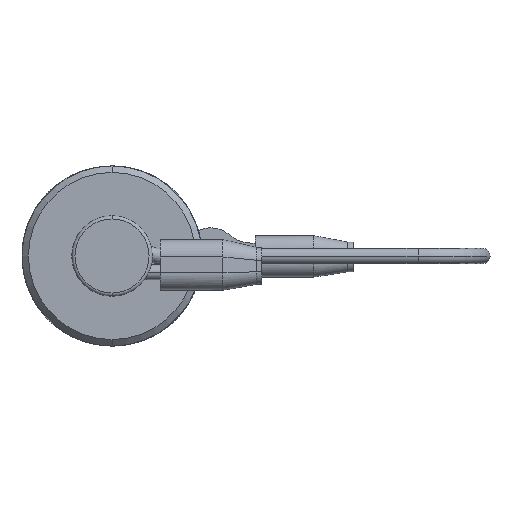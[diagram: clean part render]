
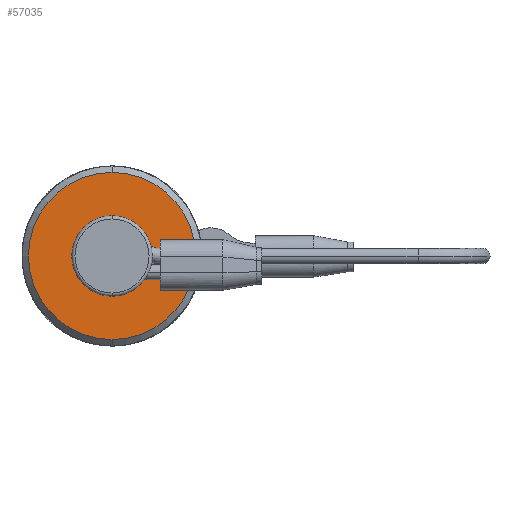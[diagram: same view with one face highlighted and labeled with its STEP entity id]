
A CAD part, left-side view. The second image highlights one B-rep face of the part: STEP entity #57035.
In plain terms, the highlighted planar face has unit normal (-1, 0, 0).
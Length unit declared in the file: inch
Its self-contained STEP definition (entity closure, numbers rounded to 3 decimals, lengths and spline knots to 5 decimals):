
#1014 = AXIS2_PLACEMENT_3D ( 'NONE', #69397, #30865, #58091 ) ;
#1385 = DIRECTION ( 'NONE',  ( 0., 0., -1. ) ) ;
#1812 = DIRECTION ( 'NONE',  ( 0., 0., 1. ) ) ;
#2141 = AXIS2_PLACEMENT_3D ( 'NONE', #56230, #39966, #1812 ) ;
#3247 = CARTESIAN_POINT ( 'NONE',  ( 0.25, 0., 0.25 ) ) ;
#3991 = CARTESIAN_POINT ( 'NONE',  ( 0.25, 0., -0.25 ) ) ;
#8788 = EDGE_LOOP ( 'NONE', ( #63048, #47531 ) ) ;
#15777 = DIRECTION ( 'NONE',  ( 1., 0., 0. ) ) ;
#19575 = DIRECTION ( 'NONE',  ( 0., 0., -1. ) ) ;
#22576 = AXIS2_PLACEMENT_3D ( 'NONE', #63763, #51753, #19575 ) ;
#22975 = FACE_BOUND ( 'NONE', #8788, .T. ) ;
#24533 = VERTEX_POINT ( 'NONE', #3247 ) ;
#27366 = CARTESIAN_POINT ( 'NONE',  ( 0.25, 0., 0. ) ) ;
#28226 = CARTESIAN_POINT ( 'NONE',  ( 0.25, 0., 0. ) ) ;
#30501 = CIRCLE ( 'NONE', #1014, 0.25 ) ;
#30865 = DIRECTION ( 'NONE',  ( 1., 0., 0. ) ) ;
#35651 = CIRCLE ( 'NONE', #40172, 0.25 ) ;
#35816 = AXIS2_PLACEMENT_3D ( 'NONE', #28226, #49812, #1385 ) ;
#38368 = DIRECTION ( 'NONE',  ( 0., 0., -1. ) ) ;
#38778 = CARTESIAN_POINT ( 'NONE',  ( 0.25, 0., 0.519 ) ) ;
#39966 = DIRECTION ( 'NONE',  ( -1., 0., 0. ) ) ;
#40046 = ORIENTED_EDGE ( 'NONE', *, *, #60106, .F. ) ;
#40172 = AXIS2_PLACEMENT_3D ( 'NONE', #27366, #15777, #38368 ) ;
#44860 = CIRCLE ( 'NONE', #35816, 0.519 ) ;
#45207 = CIRCLE ( 'NONE', #22576, 0.519 ) ;
#45747 = EDGE_CURVE ( 'NONE', #60590, #24533, #35651, .T. ) ;
#47531 = ORIENTED_EDGE ( 'NONE', *, *, #66505, .T. ) ;
#48396 = CARTESIAN_POINT ( 'NONE',  ( 0.25, 0., -0.519 ) ) ;
#49812 = DIRECTION ( 'NONE',  ( 1., 0., 0. ) ) ;
#51160 = EDGE_CURVE ( 'NONE', #64931, #57398, #45207, .T. ) ;
#51753 = DIRECTION ( 'NONE',  ( 1., 0., 0. ) ) ;
#54551 = EDGE_LOOP ( 'NONE', ( #40046, #56693 ) ) ;
#56230 = CARTESIAN_POINT ( 'NONE',  ( 0.25, 0.519, 0. ) ) ;
#56693 = ORIENTED_EDGE ( 'NONE', *, *, #51160, .F. ) ;
#57035 = ADVANCED_FACE ( 'NONE', ( #22975, #66135 ), #60843, .T. ) ;
#57398 = VERTEX_POINT ( 'NONE', #48396 ) ;
#58091 = DIRECTION ( 'NONE',  ( 0., 0., -1. ) ) ;
#60106 = EDGE_CURVE ( 'NONE', #57398, #64931, #44860, .T. ) ;
#60590 = VERTEX_POINT ( 'NONE', #3991 ) ;
#60843 = PLANE ( 'NONE',  #2141 ) ;
#63048 = ORIENTED_EDGE ( 'NONE', *, *, #45747, .T. ) ;
#63763 = CARTESIAN_POINT ( 'NONE',  ( 0.25, 0., 0. ) ) ;
#64931 = VERTEX_POINT ( 'NONE', #38778 ) ;
#66135 = FACE_OUTER_BOUND ( 'NONE', #54551, .T. ) ;
#66505 = EDGE_CURVE ( 'NONE', #24533, #60590, #30501, .T. ) ;
#69397 = CARTESIAN_POINT ( 'NONE',  ( 0.25, 0., 0. ) ) ;
